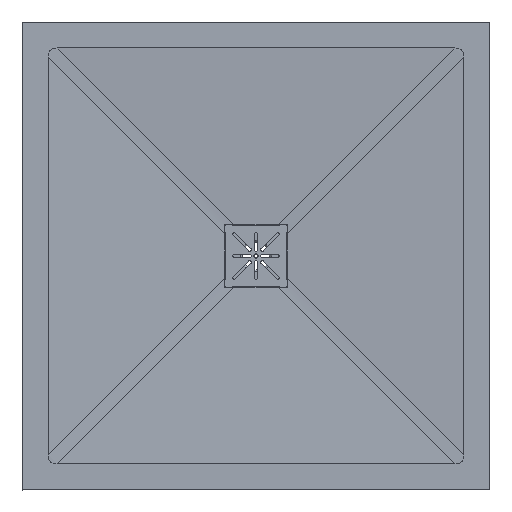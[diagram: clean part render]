
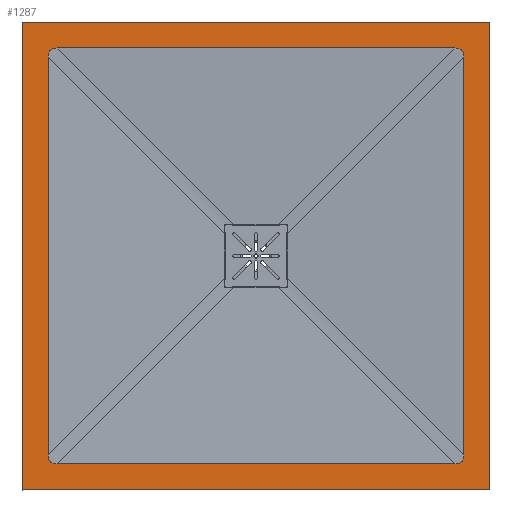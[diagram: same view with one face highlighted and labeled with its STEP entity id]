
A CAD part, top view. The second image highlights one B-rep face of the part: STEP entity #1287.
In plain terms, the highlighted planar face has unit normal (0, 0, 1).
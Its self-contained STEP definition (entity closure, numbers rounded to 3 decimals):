
#6 = VECTOR ( 'NONE', #780, 1000. ) ;
#53 = CARTESIAN_POINT ( 'NONE',  ( -542.44, 885.257, 297.307 ) ) ;
#56 = VERTEX_POINT ( 'NONE', #2895 ) ;
#81 = EDGE_CURVE ( 'NONE', #2111, #1869, #895, .T. ) ;
#209 = ORIENTED_EDGE ( 'NONE', *, *, #3800, .T. ) ;
#211 = DIRECTION ( 'NONE',  ( 1., 0., 0. ) ) ;
#212 = VERTEX_POINT ( 'NONE', #1659 ) ;
#227 = LINE ( 'NONE', #3843, #3950 ) ;
#367 = CARTESIAN_POINT ( 'NONE',  ( -592.44, 817.627, 297.307 ) ) ;
#390 = CARTESIAN_POINT ( 'NONE',  ( -1386.561, 835.257, 297.307 ) ) ;
#430 = EDGE_CURVE ( 'NONE', #56, #1230, #3455, .T. ) ;
#442 = CARTESIAN_POINT ( 'NONE',  ( -1392.44, 817.627, 297.307 ) ) ;
#464 = AXIS2_PLACEMENT_3D ( 'NONE', #2538, #1413, #4031 ) ;
#473 = VERTEX_POINT ( 'NONE', #480 ) ;
#480 = CARTESIAN_POINT ( 'NONE',  ( -592.44, 52.887, 297.307 ) ) ;
#489 = CARTESIAN_POINT ( 'NONE',  ( -542.44, 885.257, 297.307 ) ) ;
#524 = ORIENTED_EDGE ( 'NONE', *, *, #2592, .T. ) ;
#538 = ORIENTED_EDGE ( 'NONE', *, *, #1277, .T. ) ;
#708 = ORIENTED_EDGE ( 'NONE', *, *, #81, .T. ) ;
#780 = DIRECTION ( 'NONE',  ( 0., -1., 0. ) ) ;
#895 = LINE ( 'NONE', #489, #1744 ) ;
#1061 = LINE ( 'NONE', #3226, #2644 ) ;
#1106 = CARTESIAN_POINT ( 'NONE',  ( -592.44, 817.627, 297.307 ) ) ;
#1112 = PLANE ( 'NONE',  #464 ) ;
#1155 = CARTESIAN_POINT ( 'NONE',  ( -1374.81, 835.257, 297.307 ) ) ;
#1230 = VERTEX_POINT ( 'NONE', #367 ) ;
#1248 = EDGE_CURVE ( 'NONE', #1869, #1986, #2937, .T. ) ;
#1268 = EDGE_CURVE ( 'NONE', #1230, #473, #1433, .T. ) ;
#1272 = EDGE_CURVE ( 'NONE', #2426, #2111, #1061, .T. ) ;
#1277 = EDGE_CURVE ( 'NONE', #2846, #2291, #1456, .T. ) ;
#1287 = ADVANCED_FACE ( 'NONE', ( #1479, #4637 ), #1112, .T. ) ;
#1413 = DIRECTION ( 'NONE',  ( 0., 0., 1. ) ) ;
#1433 = LINE ( 'NONE', #1787, #2491 ) ;
#1456 = LINE ( 'NONE', #4658, #3401 ) ;
#1479 = FACE_BOUND ( 'NONE', #2782, .T. ) ;
#1519 = DIRECTION ( 'NONE',  ( -1., 0., 0. ) ) ;
#1542 = ORIENTED_EDGE ( 'NONE', *, *, #430, .T. ) ;
#1607 = CARTESIAN_POINT ( 'NONE',  ( -1386.561, 35.257, 297.307 ) ) ;
#1659 = CARTESIAN_POINT ( 'NONE',  ( -1374.81, 35.257, 297.307 ) ) ;
#1678 = VECTOR ( 'NONE', #4457, 1000. ) ;
#1722 = CARTESIAN_POINT ( 'NONE',  ( -610.07, 35.257, 297.307 ) ) ;
#1744 = VECTOR ( 'NONE', #1519, 1000. ) ;
#1787 = CARTESIAN_POINT ( 'NONE',  ( -592.44, 885.257, 297.307 ) ) ;
#1810 = DIRECTION ( 'NONE',  ( 0., -1., 0. ) ) ;
#1869 = VERTEX_POINT ( 'NONE', #4419 ) ;
#1902 = ORIENTED_EDGE ( 'NONE', *, *, #1272, .T. ) ;
#1916 = VECTOR ( 'NONE', #211, 1000. ) ;
#1934 = ORIENTED_EDGE ( 'NONE', *, *, #2591, .T. ) ;
#1986 = VERTEX_POINT ( 'NONE', #2436 ) ;
#2007 = LINE ( 'NONE', #3445, #1916 ) ;
#2033 =( BOUNDED_CURVE ( )  B_SPLINE_CURVE ( 3, ( #3070, #1607, #2974, #3424 ),
 .UNSPECIFIED., .F., .F. ) 
 B_SPLINE_CURVE_WITH_KNOTS ( ( 4, 4 ),
 ( 6.252, 6.314 ),
 .UNSPECIFIED. ) 
 CURVE ( )  GEOMETRIC_REPRESENTATION_ITEM ( )  RATIONAL_B_SPLINE_CURVE ( ( 1., 1., 1., 1. ) ) 
 REPRESENTATION_ITEM ( '' )  );
#2111 = VERTEX_POINT ( 'NONE', #53 ) ;
#2291 = VERTEX_POINT ( 'NONE', #442 ) ;
#2426 = VERTEX_POINT ( 'NONE', #4255 ) ;
#2436 = CARTESIAN_POINT ( 'NONE',  ( -1442.44, -14.743, 297.307 ) ) ;
#2445 = CARTESIAN_POINT ( 'NONE',  ( -592.44, 52.887, 297.307 ) ) ;
#2491 = VECTOR ( 'NONE', #1810, 1000. ) ;
#2538 = CARTESIAN_POINT ( 'NONE',  ( -542.44, 885.257, 297.307 ) ) ;
#2573 = ORIENTED_EDGE ( 'NONE', *, *, #1248, .T. ) ;
#2591 = EDGE_CURVE ( 'NONE', #212, #2846, #2033, .T. ) ;
#2592 = EDGE_CURVE ( 'NONE', #1986, #2426, #4088, .T. ) ;
#2610 = CARTESIAN_POINT ( 'NONE',  ( -1392.44, 52.887, 297.307 ) ) ;
#2642 = ORIENTED_EDGE ( 'NONE', *, *, #1268, .T. ) ;
#2644 = VECTOR ( 'NONE', #2918, 1000. ) ;
#2782 = EDGE_LOOP ( 'NONE', ( #209, #4176, #1542, #2642, #4503, #4660, #1934, #538 ) ) ;
#2846 = VERTEX_POINT ( 'NONE', #2610 ) ;
#2861 = CARTESIAN_POINT ( 'NONE',  ( -610.07, 835.257, 297.307 ) ) ;
#2895 = CARTESIAN_POINT ( 'NONE',  ( -610.07, 835.257, 297.307 ) ) ;
#2918 = DIRECTION ( 'NONE',  ( 0., 1., 0. ) ) ;
#2935 = CARTESIAN_POINT ( 'NONE',  ( -1392.44, 817.627, 297.307 ) ) ;
#2937 = LINE ( 'NONE', #4283, #6 ) ;
#2974 = CARTESIAN_POINT ( 'NONE',  ( -1392.44, 41.135, 297.307 ) ) ;
#3000 =( BOUNDED_CURVE ( )  B_SPLINE_CURVE ( 3, ( #2445, #3822, #4542, #3462 ),
 .UNSPECIFIED., .F., .T. ) 
 B_SPLINE_CURVE_WITH_KNOTS ( ( 4, 4 ),
 ( 3.11, 3.173 ),
 .UNSPECIFIED. ) 
 CURVE ( )  GEOMETRIC_REPRESENTATION_ITEM ( )  RATIONAL_B_SPLINE_CURVE ( ( 1., 1., 1., 1. ) ) 
 REPRESENTATION_ITEM ( '' )  );
#3020 = CARTESIAN_POINT ( 'NONE',  ( -1374.81, 835.257, 297.307 ) ) ;
#3070 = CARTESIAN_POINT ( 'NONE',  ( -1374.81, 35.257, 297.307 ) ) ;
#3099 = VERTEX_POINT ( 'NONE', #3020 ) ;
#3222 = EDGE_CURVE ( 'NONE', #3099, #56, #2007, .T. ) ;
#3226 = CARTESIAN_POINT ( 'NONE',  ( -542.44, 885.257, 297.307 ) ) ;
#3401 = VECTOR ( 'NONE', #4372, 1000. ) ;
#3424 = CARTESIAN_POINT ( 'NONE',  ( -1392.44, 52.887, 297.307 ) ) ;
#3445 = CARTESIAN_POINT ( 'NONE',  ( -542.44, 835.257, 297.307 ) ) ;
#3455 =( BOUNDED_CURVE ( )  B_SPLINE_CURVE ( 3, ( #2861, #3593, #4301, #1106 ),
 .UNSPECIFIED., .F., .F. ) 
 B_SPLINE_CURVE_WITH_KNOTS ( ( 4, 4 ),
 ( 3.11, 3.173 ),
 .UNSPECIFIED. ) 
 CURVE ( )  GEOMETRIC_REPRESENTATION_ITEM ( )  RATIONAL_B_SPLINE_CURVE ( ( 1., 1., 1., 1. ) ) 
 REPRESENTATION_ITEM ( '' )  );
#3462 = CARTESIAN_POINT ( 'NONE',  ( -610.07, 35.257, 297.307 ) ) ;
#3593 = CARTESIAN_POINT ( 'NONE',  ( -598.318, 835.257, 297.307 ) ) ;
#3607 = EDGE_CURVE ( 'NONE', #473, #4497, #3000, .T. ) ;
#3659 = EDGE_CURVE ( 'NONE', #4497, #212, #227, .T. ) ;
#3800 = EDGE_CURVE ( 'NONE', #2291, #3099, #3969, .T. ) ;
#3822 = CARTESIAN_POINT ( 'NONE',  ( -592.44, 41.135, 297.307 ) ) ;
#3843 = CARTESIAN_POINT ( 'NONE',  ( -542.44, 35.257, 297.307 ) ) ;
#3950 = VECTOR ( 'NONE', #4583, 1000. ) ;
#3969 =( BOUNDED_CURVE ( )  B_SPLINE_CURVE ( 3, ( #2935, #4370, #390, #1155 ),
 .UNSPECIFIED., .F., .T. ) 
 B_SPLINE_CURVE_WITH_KNOTS ( ( 4, 4 ),
 ( 6.252, 6.314 ),
 .UNSPECIFIED. ) 
 CURVE ( )  GEOMETRIC_REPRESENTATION_ITEM ( )  RATIONAL_B_SPLINE_CURVE ( ( 1., 1., 1., 1. ) ) 
 REPRESENTATION_ITEM ( '' )  );
#4031 = DIRECTION ( 'NONE',  ( 0., -1., 0. ) ) ;
#4088 = LINE ( 'NONE', #4411, #1678 ) ;
#4176 = ORIENTED_EDGE ( 'NONE', *, *, #3222, .T. ) ;
#4255 = CARTESIAN_POINT ( 'NONE',  ( -542.44, -14.743, 297.307 ) ) ;
#4283 = CARTESIAN_POINT ( 'NONE',  ( -1442.44, 885.257, 297.307 ) ) ;
#4301 = CARTESIAN_POINT ( 'NONE',  ( -592.44, 829.378, 297.307 ) ) ;
#4370 = CARTESIAN_POINT ( 'NONE',  ( -1392.44, 829.378, 297.307 ) ) ;
#4372 = DIRECTION ( 'NONE',  ( 0., 1., 0. ) ) ;
#4411 = CARTESIAN_POINT ( 'NONE',  ( -542.44, -14.743, 297.307 ) ) ;
#4419 = CARTESIAN_POINT ( 'NONE',  ( -1442.44, 885.257, 297.307 ) ) ;
#4457 = DIRECTION ( 'NONE',  ( 1., 0., 0. ) ) ;
#4497 = VERTEX_POINT ( 'NONE', #1722 ) ;
#4503 = ORIENTED_EDGE ( 'NONE', *, *, #3607, .T. ) ;
#4542 = CARTESIAN_POINT ( 'NONE',  ( -598.318, 35.257, 297.307 ) ) ;
#4583 = DIRECTION ( 'NONE',  ( -1., 0., 0. ) ) ;
#4637 = FACE_OUTER_BOUND ( 'NONE', #4657, .T. ) ;
#4657 = EDGE_LOOP ( 'NONE', ( #524, #1902, #708, #2573 ) ) ;
#4658 = CARTESIAN_POINT ( 'NONE',  ( -1392.44, 885.257, 297.307 ) ) ;
#4660 = ORIENTED_EDGE ( 'NONE', *, *, #3659, .T. ) ;
